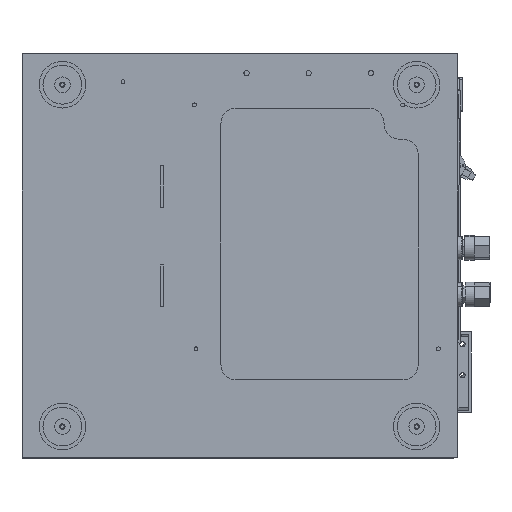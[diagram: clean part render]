
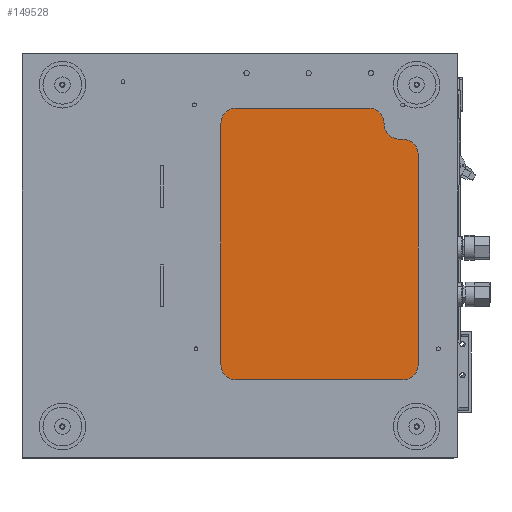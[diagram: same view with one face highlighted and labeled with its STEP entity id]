
A CAD part, front view. The second image highlights one B-rep face of the part: STEP entity #149528.
In plain terms, the highlighted planar face has unit normal (0, -1, 0).
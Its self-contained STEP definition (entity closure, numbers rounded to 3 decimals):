
#792 = EDGE_CURVE ( 'NONE', #14530, #127421, #105345, .T. ) ;
#2262 = CARTESIAN_POINT ( 'NONE',  ( 139.505, 2.669, 254.371 ) ) ;
#2613 = EDGE_CURVE ( 'NONE', #63188, #76254, #42566, .T. ) ;
#3255 = CARTESIAN_POINT ( 'NONE',  ( 12.505, 2.669, 99.371 ) ) ;
#4918 = EDGE_LOOP ( 'NONE', ( #123235, #131748, #153052, #34346, #51297, #134255, #109169, #9035, #65641, #58959, #66921 ) ) ;
#9035 = ORIENTED_EDGE ( 'NONE', *, *, #2613, .T. ) ;
#10045 = CARTESIAN_POINT ( 'NONE',  ( 139.505, 2.669, 244.371 ) ) ;
#11677 = DIRECTION ( 'NONE',  ( 1., 0., 0. ) ) ;
#12503 = EDGE_CURVE ( 'NONE', #56848, #44277, #94174, .T. ) ;
#14134 = DIRECTION ( 'NONE',  ( -1., 0., 0. ) ) ;
#14530 = VERTEX_POINT ( 'NONE', #149800 ) ;
#17743 = AXIS2_PLACEMENT_3D ( 'NONE', #35425, #24972, #72231 ) ;
#20371 = LINE ( 'NONE', #110662, #72363 ) ;
#24972 = DIRECTION ( 'NONE',  ( 0., -1., 0. ) ) ;
#30539 = CARTESIAN_POINT ( 'NONE',  ( 117.505, 2.669, 264.371 ) ) ;
#34346 = ORIENTED_EDGE ( 'NONE', *, *, #98474, .T. ) ;
#35425 = CARTESIAN_POINT ( 'NONE',  ( 129.505, 2.669, 109.371 ) ) ;
#36697 = FACE_OUTER_BOUND ( 'NONE', #4918, .T. ) ;
#40269 = CARTESIAN_POINT ( 'NONE',  ( 107.505, 2.669, 274.371 ) ) ;
#42566 = LINE ( 'NONE', #3255, #135394 ) ;
#43055 = CIRCLE ( 'NONE', #125193, 10. ) ;
#44277 = VERTEX_POINT ( 'NONE', #76100 ) ;
#44849 = EDGE_CURVE ( 'NONE', #44277, #63188, #83724, .T. ) ;
#46705 = CIRCLE ( 'NONE', #50034, 10. ) ;
#46729 = LINE ( 'NONE', #78397, #93087 ) ;
#50034 = AXIS2_PLACEMENT_3D ( 'NONE', #127283, #113378, #117436 ) ;
#51297 = ORIENTED_EDGE ( 'NONE', *, *, #120095, .T. ) ;
#55379 = CIRCLE ( 'NONE', #17743, 10. ) ;
#56848 = VERTEX_POINT ( 'NONE', #121367 ) ;
#57944 = CARTESIAN_POINT ( 'NONE',  ( 22.505, 2.669, 99.371 ) ) ;
#58959 = ORIENTED_EDGE ( 'NONE', *, *, #80424, .T. ) ;
#62364 = DIRECTION ( 'NONE',  ( 0., 0., 1. ) ) ;
#63188 = VERTEX_POINT ( 'NONE', #57944 ) ;
#63538 = CARTESIAN_POINT ( 'NONE',  ( 129.505, 2.669, 99.371 ) ) ;
#65641 = ORIENTED_EDGE ( 'NONE', *, *, #92473, .T. ) ;
#66921 = ORIENTED_EDGE ( 'NONE', *, *, #153281, .T. ) ;
#69106 = DIRECTION ( 'NONE',  ( 1., 0., 0. ) ) ;
#69938 = AXIS2_PLACEMENT_3D ( 'NONE', #88414, #146970, #99279 ) ;
#71169 = CARTESIAN_POINT ( 'NONE',  ( 139.505, 2.669, 109.371 ) ) ;
#72231 = DIRECTION ( 'NONE',  ( 1., 0., 0. ) ) ;
#72363 = VECTOR ( 'NONE', #62364, 1000. ) ;
#75290 = VERTEX_POINT ( 'NONE', #40269 ) ;
#76100 = CARTESIAN_POINT ( 'NONE',  ( 12.505, 2.669, 109.371 ) ) ;
#76254 = VERTEX_POINT ( 'NONE', #63538 ) ;
#78397 = CARTESIAN_POINT ( 'NONE',  ( 12.505, 2.669, 274.371 ) ) ;
#80008 = CARTESIAN_POINT ( 'NONE',  ( 129.505, 2.669, 244.371 ) ) ;
#80424 = EDGE_CURVE ( 'NONE', #101254, #108083, #20371, .T. ) ;
#81003 = AXIS2_PLACEMENT_3D ( 'NONE', #115852, #90458, #90991 ) ;
#82371 = AXIS2_PLACEMENT_3D ( 'NONE', #80008, #128190, #69106 ) ;
#83079 = CARTESIAN_POINT ( 'NONE',  ( 129.505, 2.669, 254.371 ) ) ;
#83724 = CIRCLE ( 'NONE', #81003, 10. ) ;
#88414 = CARTESIAN_POINT ( 'NONE',  ( 127.505, 2.669, 264.371 ) ) ;
#90458 = DIRECTION ( 'NONE',  ( 0., -1., 0. ) ) ;
#90854 = DIRECTION ( 'NONE',  ( -1., 0., 0. ) ) ;
#90991 = DIRECTION ( 'NONE',  ( 1., 0., 0. ) ) ;
#92473 = EDGE_CURVE ( 'NONE', #76254, #101254, #55379, .T. ) ;
#93087 = VECTOR ( 'NONE', #90854, 1000. ) ;
#93398 = VERTEX_POINT ( 'NONE', #83079 ) ;
#93726 = DIRECTION ( 'NONE',  ( 0., -1., 0. ) ) ;
#94174 = LINE ( 'NONE', #132746, #114572 ) ;
#96736 = CIRCLE ( 'NONE', #82371, 10. ) ;
#98474 = EDGE_CURVE ( 'NONE', #75290, #149908, #46729, .T. ) ;
#99279 = DIRECTION ( 'NONE',  ( 1., 0., 0. ) ) ;
#99842 = AXIS2_PLACEMENT_3D ( 'NONE', #117071, #127924, #140872 ) ;
#101254 = VERTEX_POINT ( 'NONE', #71169 ) ;
#103514 = EDGE_CURVE ( 'NONE', #127421, #75290, #46705, .T. ) ;
#105345 = CIRCLE ( 'NONE', #69938, 10. ) ;
#108083 = VERTEX_POINT ( 'NONE', #10045 ) ;
#109169 = ORIENTED_EDGE ( 'NONE', *, *, #44849, .T. ) ;
#110662 = CARTESIAN_POINT ( 'NONE',  ( 139.505, 2.669, 254.371 ) ) ;
#111084 = VECTOR ( 'NONE', #14134, 1000. ) ;
#113378 = DIRECTION ( 'NONE',  ( 0., -1., 0. ) ) ;
#114572 = VECTOR ( 'NONE', #144684, 1000. ) ;
#115852 = CARTESIAN_POINT ( 'NONE',  ( 22.505, 2.669, 109.371 ) ) ;
#117071 = CARTESIAN_POINT ( 'NONE',  ( 164.505, 2.669, 309.371 ) ) ;
#117436 = DIRECTION ( 'NONE',  ( 1., 0., 0. ) ) ;
#120095 = EDGE_CURVE ( 'NONE', #149908, #56848, #43055, .T. ) ;
#120417 = LINE ( 'NONE', #2262, #111084 ) ;
#121367 = CARTESIAN_POINT ( 'NONE',  ( 12.505, 2.669, 264.371 ) ) ;
#121550 = DIRECTION ( 'NONE',  ( 1., 0., 0. ) ) ;
#123235 = ORIENTED_EDGE ( 'NONE', *, *, #126704, .T. ) ;
#124679 = CARTESIAN_POINT ( 'NONE',  ( 22.505, 2.669, 274.371 ) ) ;
#125193 = AXIS2_PLACEMENT_3D ( 'NONE', #142949, #93726, #11677 ) ;
#126704 = EDGE_CURVE ( 'NONE', #93398, #14530, #120417, .T. ) ;
#127283 = CARTESIAN_POINT ( 'NONE',  ( 107.505, 2.669, 264.371 ) ) ;
#127421 = VERTEX_POINT ( 'NONE', #30539 ) ;
#127924 = DIRECTION ( 'NONE',  ( 0., 1., 0. ) ) ;
#128190 = DIRECTION ( 'NONE',  ( 0., -1., 0. ) ) ;
#131748 = ORIENTED_EDGE ( 'NONE', *, *, #792, .T. ) ;
#132746 = CARTESIAN_POINT ( 'NONE',  ( 12.505, 2.669, 274.371 ) ) ;
#134255 = ORIENTED_EDGE ( 'NONE', *, *, #12503, .T. ) ;
#135394 = VECTOR ( 'NONE', #121550, 1000. ) ;
#140872 = DIRECTION ( 'NONE',  ( 1., 0., 0. ) ) ;
#142949 = CARTESIAN_POINT ( 'NONE',  ( 22.505, 2.669, 264.371 ) ) ;
#144684 = DIRECTION ( 'NONE',  ( 0., 0., -1. ) ) ;
#146970 = DIRECTION ( 'NONE',  ( 0., 1., 0. ) ) ;
#149528 = ADVANCED_FACE ( 'NONE', ( #36697 ), #150757, .F. ) ;
#149800 = CARTESIAN_POINT ( 'NONE',  ( 127.505, 2.669, 254.371 ) ) ;
#149908 = VERTEX_POINT ( 'NONE', #124679 ) ;
#150757 = PLANE ( 'NONE',  #99842 ) ;
#153052 = ORIENTED_EDGE ( 'NONE', *, *, #103514, .T. ) ;
#153281 = EDGE_CURVE ( 'NONE', #108083, #93398, #96736, .T. ) ;
